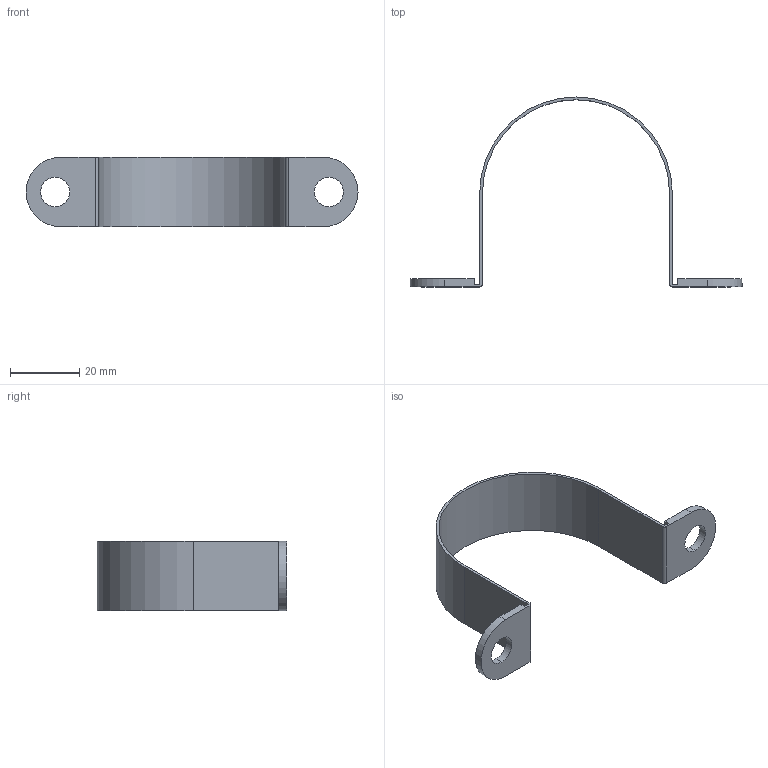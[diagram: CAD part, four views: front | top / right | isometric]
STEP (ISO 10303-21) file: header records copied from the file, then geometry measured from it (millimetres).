
FILE_DESCRIPTION (( 'STEP AP203' ), '1' );
FILE_NAME ('3D-R395_54_173762500.STEP', '2024-08-29T20:32:48', ( '' ), ( '' ), 'SwSTEP 2.0', 'SolidWorks 2024', '' );
FILE_SCHEMA (( 'CONFIG_CONTROL_DESIGN' ));
Length unit declared in the file: millimetre
Products named in the file (1): 3D-R395_54_173762500
Bounding box: 95.8 x 54.8 x 20 mm (x, y, z)
Volume: 3535.3 mm3; surface area: 7433.3 mm2
Topology: 1 solids, 1 shells, 26 faces, 72 edges, 48 vertices
Faces by surface type: plane 14, cylinder 12
Entity records: 925 total; most frequent: DIRECTION 150, CARTESIAN_POINT 147, ORIENTED_EDGE 144, EDGE_CURVE 72, AXIS2_PLACEMENT_3D 51, LINE 48, VECTOR 48, VERTEX_POINT 48
